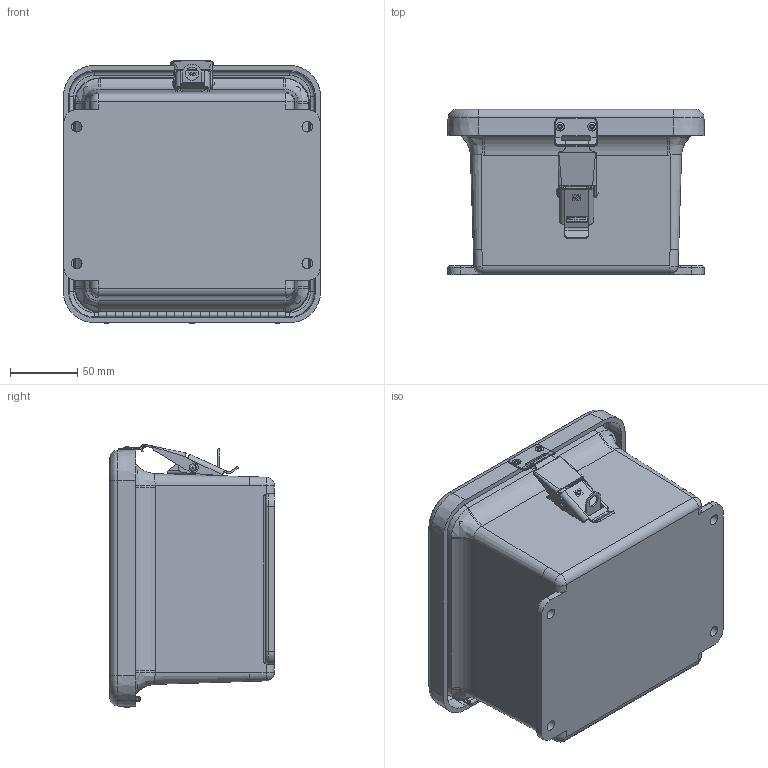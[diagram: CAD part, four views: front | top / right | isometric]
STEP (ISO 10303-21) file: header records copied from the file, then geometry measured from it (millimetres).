
FILE_DESCRIPTION((''),'2;1');
FILE_NAME('S:\Stahlin Enclosures\18087\cadfiles\18087-STAHLIN\J-SERIES ASSY\step files\606\JW606HPL.stp','2007-09-10T12:47:49',('pmescher'),(''),'Autodesk Inventor 11','Autodesk Inventor 11','');
FILE_SCHEMA(('AUTOMOTIVE_DESIGN { 1 0 10303 214 1 1 1 1 }'));
Length unit declared in the file: inch
Products named in the file (22): JW606HPL; J606BHL; J606HL_5; RMINS45821P_133; RMINS45821P_134; RMINS45821P_135; RMINS45821P_136; JW606HLCVR; GASKET_606; WINDOW_606; RMHING5.5; RMHINGCOV5.5; RMHINGBOX5.5; RMHINGPIN5.5; RMRIV43; RMLATJHPL_7; HPL ANCHOR PLATE; HPL LOCKING LAYER; HPL HOOK BLADE; HPL latch pin; HPL latch pin 2; RMKEEPJHPL
Assembly tree (29 placements, depth 3):
  JW606HPL
    J606BHL
      J606HL_5
      RMINS45821P_133
      RMINS45821P_134
      RMINS45821P_135
      RMINS45821P_136
    JW606HLCVR
    GASKET_606
    WINDOW_606
    RMHING5.5
      RMHINGCOV5.5
      RMHINGBOX5.5
      RMHINGPIN5.5
    RMRIV43  x9
    RMLATJHPL_7
      HPL ANCHOR PLATE
      HPL LOCKING LAYER
      HPL HOOK BLADE
      HPL latch pin
      HPL latch pin 2
    RMKEEPJHPL
Bounding box: 191.13 x 122.53 x 195.59 mm (x, y, z)
Volume: 664355.7 mm3; surface area: 344962.3 mm2
Topology: 26 solids, 26 shells, 694 faces, 1743 edges, 1114 vertices
Faces by surface type: plane 271, cylinder 218, bspline 132, cone 37, torus 32, sphere 4
Full cylindrical faces by diameter (mm): 2.159 x1, 2.921 x1, 3.175 x9, 3.429 x3, 3.556 x7, 6.35 x9, 6.858 x4
Entity records: 23497 total; most frequent: CARTESIAN_POINT 7335, DIRECTION 3286, ORIENTED_EDGE 3114, EDGE_CURVE 1557, AXIS2_PLACEMENT_3D 1234, VERTEX_POINT 1046, EDGE_LOOP 873, VECTOR 818
